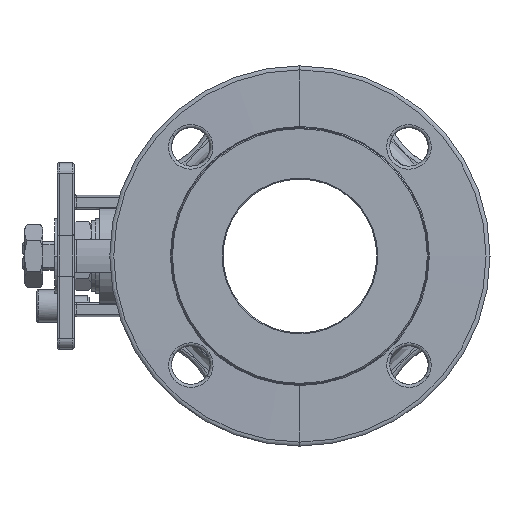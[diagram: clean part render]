
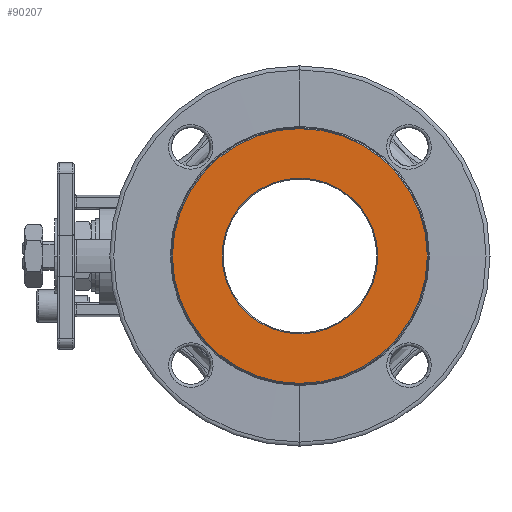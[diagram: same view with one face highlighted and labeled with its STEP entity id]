
A CAD part, left-side view. The second image highlights one B-rep face of the part: STEP entity #90207.
In plain terms, the highlighted planar face has unit normal (-1, 0, 0).
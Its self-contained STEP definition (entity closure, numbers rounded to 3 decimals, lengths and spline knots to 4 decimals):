
#4953 = FACE_OUTER_BOUND ( 'NONE', #52857, .T. ) ;
#6306 = CARTESIAN_POINT ( 'NONE',  ( -3.6614, 0., 0. ) ) ;
#8007 = DIRECTION ( 'NONE',  ( 0., 0., 1. ) ) ;
#10028 = CARTESIAN_POINT ( 'NONE',  ( -3.6614, 0., 0. ) ) ;
#10364 = EDGE_CURVE ( 'NONE', #28267, #11822, #98864, .T. ) ;
#11822 = VERTEX_POINT ( 'NONE', #48775 ) ;
#14262 = DIRECTION ( 'NONE',  ( 0., 0., 1. ) ) ;
#17937 = DIRECTION ( 'NONE',  ( 0., 0., 1. ) ) ;
#21450 = CIRCLE ( 'NONE', #89345, 2.4803 ) ;
#22612 = DIRECTION ( 'NONE',  ( -1., 0., 0. ) ) ;
#23872 = VERTEX_POINT ( 'NONE', #31712 ) ;
#25497 = AXIS2_PLACEMENT_3D ( 'NONE', #6306, #61631, #14262 ) ;
#28267 = VERTEX_POINT ( 'NONE', #52274 ) ;
#31712 = CARTESIAN_POINT ( 'NONE',  ( -3.6614, 0., 1.5157 ) ) ;
#32668 = CARTESIAN_POINT ( 'NONE',  ( -3.6614, 0., 0. ) ) ;
#36280 = CARTESIAN_POINT ( 'NONE',  ( -3.6614, 0., -1.5157 ) ) ;
#38871 = AXIS2_PLACEMENT_3D ( 'NONE', #39091, #55367, #8007 ) ;
#39091 = CARTESIAN_POINT ( 'NONE',  ( -3.6614, -2.5101, -2.5101 ) ) ;
#40647 = DIRECTION ( 'NONE',  ( 0., 0., -1. ) ) ;
#46101 = AXIS2_PLACEMENT_3D ( 'NONE', #32668, #88043, #40647 ) ;
#48775 = CARTESIAN_POINT ( 'NONE',  ( -3.6614, 0., -2.4803 ) ) ;
#52274 = CARTESIAN_POINT ( 'NONE',  ( -3.6614, 0., 2.4803 ) ) ;
#52857 = EDGE_LOOP ( 'NONE', ( #73500, #70574 ) ) ;
#54811 = AXIS2_PLACEMENT_3D ( 'NONE', #10028, #65325, #17937 ) ;
#55367 = DIRECTION ( 'NONE',  ( -1., 0., 0. ) ) ;
#56737 = EDGE_CURVE ( 'NONE', #11822, #28267, #21450, .T. ) ;
#61631 = DIRECTION ( 'NONE',  ( 1., 0., 0. ) ) ;
#63137 = FACE_BOUND ( 'NONE', #80767, .T. ) ;
#65325 = DIRECTION ( 'NONE',  ( 1., 0., 0. ) ) ;
#65566 = CIRCLE ( 'NONE', #54811, 1.5157 ) ;
#67793 = EDGE_CURVE ( 'NONE', #97069, #23872, #72387, .T. ) ;
#70012 = CARTESIAN_POINT ( 'NONE',  ( -3.6614, 0., 0. ) ) ;
#70574 = ORIENTED_EDGE ( 'NONE', *, *, #10364, .T. ) ;
#72387 = CIRCLE ( 'NONE', #25497, 1.5157 ) ;
#73500 = ORIENTED_EDGE ( 'NONE', *, *, #56737, .T. ) ;
#77947 = DIRECTION ( 'NONE',  ( 0., 0., -1. ) ) ;
#78865 = PLANE ( 'NONE',  #38871 ) ;
#80767 = EDGE_LOOP ( 'NONE', ( #94750, #88372 ) ) ;
#88043 = DIRECTION ( 'NONE',  ( -1., 0., 0. ) ) ;
#88372 = ORIENTED_EDGE ( 'NONE', *, *, #67793, .T. ) ;
#89345 = AXIS2_PLACEMENT_3D ( 'NONE', #70012, #22612, #77947 ) ;
#90207 = ADVANCED_FACE ( 'NONE', ( #4953, #63137 ), #78865, .T. ) ;
#90376 = EDGE_CURVE ( 'NONE', #23872, #97069, #65566, .T. ) ;
#94750 = ORIENTED_EDGE ( 'NONE', *, *, #90376, .T. ) ;
#97069 = VERTEX_POINT ( 'NONE', #36280 ) ;
#98864 = CIRCLE ( 'NONE', #46101, 2.4803 ) ;
